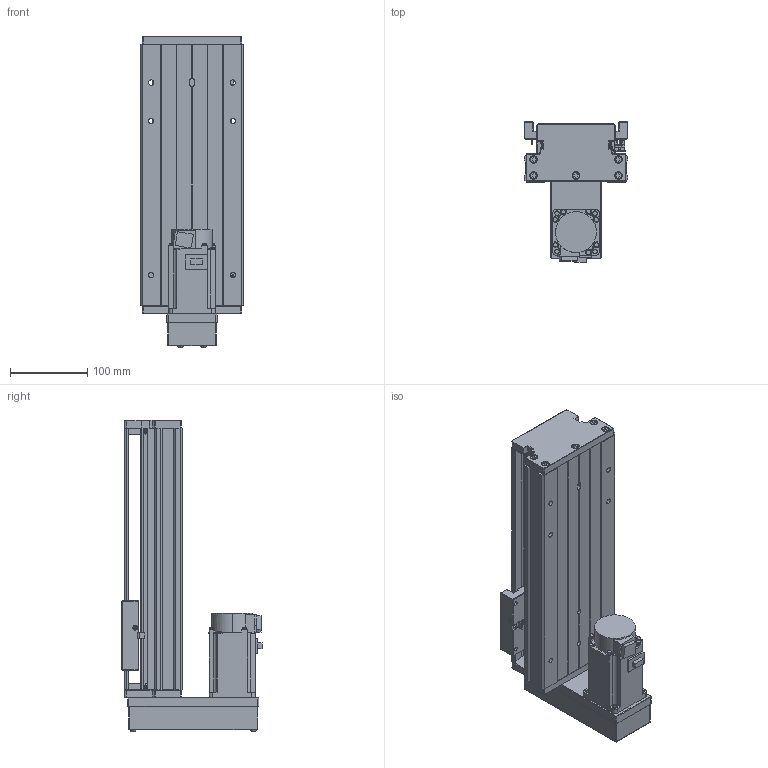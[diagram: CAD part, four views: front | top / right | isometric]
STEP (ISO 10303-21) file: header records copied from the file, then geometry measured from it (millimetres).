
FILE_DESCRIPTION (( 'STEP AP203' ), '1' );
FILE_NAME ('KTH130-200-BM-M40-C4.step', '2023-06-30T04:03:48', ( '微软用户' ), ( '微软中国' ), 'SwSTEP 2.0', 'SolidWorks 2020', '' );
FILE_SCHEMA (( 'CONFIG_CONTROL_DESIGN' ));
Length unit declared in the file: millimetre
Products named in the file (19): KTH130-200-BM-M40-C4; GBT70.1 M5℅16; す晦芛蹟隊 M3℅5; GBT 70.2-M3¡Á5_M3¡Á6; GBT 70.3-M3℅8; GTH14-001_200; CTHA60-017; HG-KN43J-S100; KTH130-002_KTH130-002; EE_SX911P_R; GBT 70.2-M4¡Á35_M4¡Á35; KTH130-004; CTHA60-016; GTH14-015-2_CTHA86-015-2; KTH130-005; GBT 70.1-M3℅5; GTH14-033; GB1155-6X6; GBT77-2000 M3×3
Assembly tree (53 placements, depth 2):
  KTH130-200-BM-M40-C4
    GTH14-001_200
    KTH130-002_KTH130-002
    KTH130-004
    KTH130-005
    GB1155-6X6  x2
    GBT70.1 M5℅16  x10
    GBT 70.2-M3¡Á5_M3¡Á6  x4
    CTHA60-017  x3
    EE_SX911P_R  x3
    CTHA60-016  x2
    GBT 70.1-M3℅5  x6
    GBT77-2000 M3×3  x6
    す晦芛蹟隊 M3℅5  x2
    GBT 70.3-M3℅8  x4
    HG-KN43J-S100
    GBT 70.2-M4¡Á35_M4¡Á35  x4
    GTH14-015-2_CTHA86-015-2
    GTH14-033
Bounding box: 135 x 181.8 x 404.2 mm (x, y, z)
Volume: 2595180.8 mm3; surface area: 477233.2 mm2
Topology: 56 solids, 56 shells, 2203 faces, 5318 edges, 3310 vertices
Faces by surface type: plane 1193, cylinder 596, cone 290, torus 100, sphere 24
Entity records: 39942 total; most frequent: CARTESIAN_POINT 8534, DIRECTION 5919, ORIENTED_EDGE 5836, EDGE_CURVE 2918, AXIS2_PLACEMENT_3D 2026, LINE 1867, VECTOR 1867, VERTEX_POINT 1863
